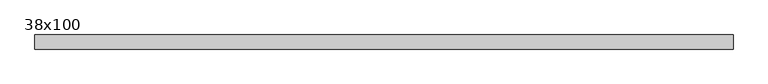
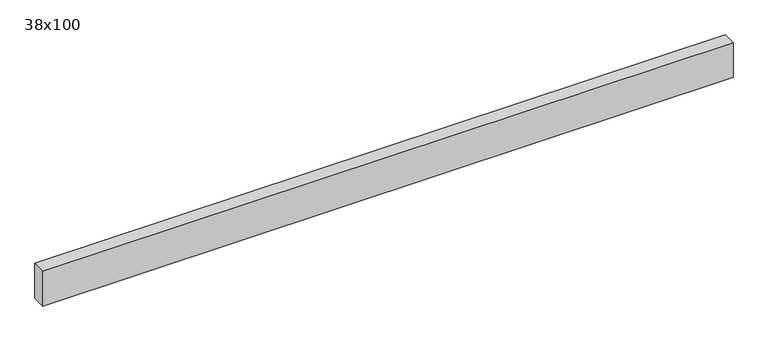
"""IFC4 building model written with IfcOpenShell, lengths in millimetres: beam geometry, Poutre - Bois de construction de dimensions courantes : 38x100."""

import ifcopenshell
import ifcopenshell.guid

model = None  # the IFC model being written
_history = None  # IfcOwnerHistory: only IFC2X3 demands one
_inside = {}  # id of a spatial element -> (the spatial element, [elements in it])
_under = {}  # id of a project, library or spatial element -> (it, [spatial elements below it])
_declared = {}  # id of a project -> (the project, [libraries it declares])
_typed = {}  # id of a type object -> (the type object, [elements of that type])
_made_of = {}  # id of a material, layer set ... -> (it, [elements and type objects made of it])


def new_model(schema):
    """Start an empty IFC model of exactly this schema.

    Asked for "IFC4X3", IfcOpenShell would pick the latest addendum, in which some entities
    have other attributes; the version numbers below select the first issue.
    IFC2X3 requires an IfcOwnerHistory on every rooted entity: one is made here for all.
    """
    global model, _history
    if schema == "IFC4X3":
        model = ifcopenshell.file(schema_version=(4, 3, 0, 0))
    else:
        model = ifcopenshell.file(schema=schema)
    _inside.clear()
    _under.clear()
    _declared.clear()
    _typed.clear()
    _made_of.clear()
    _history = None
    if model.schema == "IFC2X3":
        org = make("IfcOrganization", Name="unknown")
        user = make(
            "IfcPersonAndOrganization",
            ThePerson=make("IfcPerson", FamilyName="unknown"),
            TheOrganization=org,
        )
        app = make(
            "IfcApplication",
            ApplicationDeveloper=org,
            Version="unknown",
            ApplicationFullName="unknown",
            ApplicationIdentifier="unknown",
        )
        _history = make(
            "IfcOwnerHistory",
            OwningUser=user,
            OwningApplication=app,
            ChangeAction="ADDED",
            CreationDate=0,
        )
    return model


def make(cls, **values):
    """One entity of the class cls with the attributes given. An attribute that is None is left unset."""
    return model.create_entity(
        cls, **{name: value for name, value in values.items() if value is not None}
    )


def rooted(cls, **values):
    """An entity with a GlobalId (a new one), such as an element, a storey or a relation."""
    return make(cls, GlobalId=ifcopenshell.guid.new(), OwnerHistory=_history, **values)


def si_unit(unit_type, name, prefix=None):
    """IfcSIUnit, for example si_unit("LENGTHUNIT", "METRE", prefix="MILLI")."""
    return make("IfcSIUnit", UnitType=unit_type, Prefix=prefix, Name=name)


def assignment(units):
    """IfcUnitAssignment: the units of a project."""
    return None if units is None else make("IfcUnitAssignment", Units=units)


def point(xyz):
    """IfcCartesianPoint."""
    return None if xyz is None else make("IfcCartesianPoint", Coordinates=xyz)


def direction(xyz):
    """IfcDirection."""
    return None if xyz is None else make("IfcDirection", DirectionRatios=xyz)


def frame(location, z_axis=None, x_axis=None):
    """IfcAxis2Placement3D, a coordinate frame: its origin and axes. An axis left out is left unset."""
    return make(
        "IfcAxis2Placement3D",
        Location=point(location),
        Axis=direction(z_axis),
        RefDirection=direction(x_axis),
    )


def origin():
    """The frame at (0, 0, 0) with its axes left unset."""
    return frame((0.0, 0.0, 0.0))


def place(relative_to, where):
    """IfcLocalPlacement: puts the frame where relative to a parent placement (None: the world)."""
    return make(
        "IfcLocalPlacement", PlacementRelTo=relative_to, RelativePlacement=where
    )


def context(
    kind, dimensions, precision=None, world=None, true_north=None, identifier=None
):
    """IfcGeometricRepresentationContext, for example the 3D "Model" context."""
    return make(
        "IfcGeometricRepresentationContext",
        ContextIdentifier=identifier,
        ContextType=kind,
        CoordinateSpaceDimension=dimensions,
        Precision=precision,
        WorldCoordinateSystem=world,
        TrueNorth=true_north,
    )


def project(units=None, contexts=None):
    """IfcProject with its units and contexts."""
    return rooted(
        "IfcProject",
        Name="project",
        RepresentationContexts=contexts,
        UnitsInContext=assignment(units),
    )


def spatial(cls, under=None, at=None, **own):
    """A site, building, storey or space (cls), placed at a placement, below another one or the project."""
    s = rooted(cls, ObjectPlacement=at, **own)
    if under is not None:
        _under.setdefault(under.id(), (under, []))[1].append(s)
    return s


def polyline(points):
    """IfcPolyline through the points."""
    return make("IfcPolyline", Points=[point(p) for p in points])


def outline(outer, holes=None, kind="AREA"):
    """IfcArbitraryClosedProfileDef: a profile drawn as a closed curve; with holes, ...WithVoids."""
    if holes is None:
        return make("IfcArbitraryClosedProfileDef", ProfileType=kind, OuterCurve=outer)
    return make(
        "IfcArbitraryProfileDefWithVoids",
        ProfileType=kind,
        OuterCurve=outer,
        InnerCurves=holes,
    )


def extrude(swept, where, along, depth):
    """IfcExtrudedAreaSolid: the profile swept, set in the frame where, extruded along a direction by depth."""
    return make(
        "IfcExtrudedAreaSolid",
        SweptArea=swept,
        Position=where,
        ExtrudedDirection=direction(along),
        Depth=depth,
    )


def shape(context_of_items, identifier, shape_type, items):
    """IfcShapeRepresentation: the items that make up one representation, for example the "Body"."""
    return make(
        "IfcShapeRepresentation",
        ContextOfItems=context_of_items,
        RepresentationIdentifier=identifier,
        RepresentationType=shape_type,
        Items=items,
    )


def source(mapping_origin, context_of_items, identifier, shape_type, items):
    """IfcRepresentationMap: a shape defined once, which mapped items show again and again."""
    return make(
        "IfcRepresentationMap",
        MappingOrigin=mapping_origin,
        MappedRepresentation=shape(context_of_items, identifier, shape_type, items),
    )


def transform(
    local_origin,
    x_axis=None,
    y_axis=None,
    z_axis=None,
    scale=None,
    scale2=None,
    scale3=None,
    uniform=True,
):
    """IfcCartesianTransformationOperator3D, or its non-uniform kind. x_axis, y_axis, z_axis: its Axis1, 2, 3."""
    if uniform:
        return make(
            "IfcCartesianTransformationOperator3D",
            Axis1=direction(x_axis),
            Axis2=direction(y_axis),
            LocalOrigin=point(local_origin),
            Scale=scale,
            Axis3=direction(z_axis),
        )
    return make(
        "IfcCartesianTransformationOperator3DnonUniform",
        Axis1=direction(x_axis),
        Axis2=direction(y_axis),
        LocalOrigin=point(local_origin),
        Scale=scale,
        Axis3=direction(z_axis),
        Scale2=scale2,
        Scale3=scale3,
    )


def mapped(mapping_source, mapping_target):
    """IfcMappedItem: shows the shape of a source again, moved by a transform."""
    return make(
        "IfcMappedItem", MappingSource=mapping_source, MappingTarget=mapping_target
    )


def made_of(thing, what):
    """Note that an element or type object is made of a material, layer set ...; save() writes the relation."""
    if what is not None:
        _made_of.setdefault(what.id(), (what, []))[1].append(thing)
    return thing


def element(
    cls,
    number,
    at=None,
    inside=None,
    cuts=None,
    type_object=None,
    material=None,
    context=None,
    identifier="Body",
    shape_type=None,
    held_by="IfcProductDefinitionShape",
    body=None,
    shapes=None,
    **own,
):
    """One element of the class cls, such as IfcWall. Its Tag is "e" and its number.

    at: its placement. inside: the storey or other place that contains it. cuts: it is an
    opening in that element (IfcRelVoidsElement). A single representation is given by context,
    identifier, shape_type and body (its items); several are given by shapes. held_by: the class
    of the entity that holds the representations. save() writes the other relations.
    """
    e = rooted(cls, Tag="e%d" % number, ObjectPlacement=at, **own)
    if body is not None:
        shapes = [shape(context, identifier, shape_type, body)]
    if shapes is not None:
        e.Representation = make(held_by, Representations=shapes)
    if inside is not None:
        _inside.setdefault(inside.id(), (inside, []))[1].append(e)
    if cuts is not None:
        rooted(
            "IfcRelVoidsElement", RelatingBuildingElement=cuts, RelatedOpeningElement=e
        )
    if type_object is not None:
        _typed.setdefault(type_object.id(), (type_object, []))[1].append(e)
    return made_of(e, material)


def aggregate(whole, parts):
    """IfcRelAggregates: a whole, such as a stair, and the parts it consists of."""
    return rooted("IfcRelAggregates", RelatingObject=whole, RelatedObjects=parts)


def save(model, path):
    """Write the relations noted so far, then the file.

    IfcRelAggregates (storeys below a building ...), IfcRelContainedInSpatialStructure (elements
    in a storey), IfcRelDefinesByType, IfcRelAssociatesMaterial and IfcRelDeclares: one each for
    every whole, place, type object, material and project.
    """
    for whole, parts in _under.values():
        aggregate(whole, parts)
    for where, things in _inside.values():
        rooted(
            "IfcRelContainedInSpatialStructure",
            RelatedElements=things,
            RelatingStructure=where,
        )
    for kind, things in _typed.values():
        rooted("IfcRelDefinesByType", RelatedObjects=things, RelatingType=kind)
    for what, things in _made_of.values():
        rooted("IfcRelAssociatesMaterial", RelatedObjects=things, RelatingMaterial=what)
    for by, libraries in _declared.values():
        rooted("IfcRelDeclares", RelatingContext=by, RelatedDefinitions=libraries)
    model.write(path)


def beam_38x100_e5657901(model_context):
    return source(origin(), model_context, "Body", "SweptSolid", [
        extrude(outline(polyline([(937.0, 19.05), (937.0, -19.05), (-950.0, -19.05), (-950.0, 19.05), (937.0, 19.05)])), frame((0.0, 0.0, -50.0), z_axis=(0.0, 0.0, 1.0), x_axis=(1.0, 0.0, 0.0)), (0.0, 0.0, 1.0), 100.0),
    ])


if __name__ == "__main__":
    model = new_model("IFC4")
    model_context = context("Model", 3, world=origin())
    ifc_project = project(units=[si_unit("LENGTHUNIT", "METRE", prefix="MILLI")], contexts=[model_context])
    site = spatial("IfcSite", under=ifc_project)
    building = spatial("IfcBuilding", under=site)
    placement = place(None, origin())
    beam_38x100_shape = beam_38x100_e5657901(model_context)
    element("IfcBeam", 1, ObjectType="Poutre - Bois de construction de dimensions courantes : 38x100", at=placement, inside=building, context=model_context, shape_type="MappedRepresentation", body=[
        mapped(beam_38x100_shape, transform((0.0, 0.0, 0.0), x_axis=(1.0, 0.0, 0.0), y_axis=(0.0, 1.0, 0.0), z_axis=(0.0, 0.0, 1.0))),
    ])
    save(model, "model.ifc")
